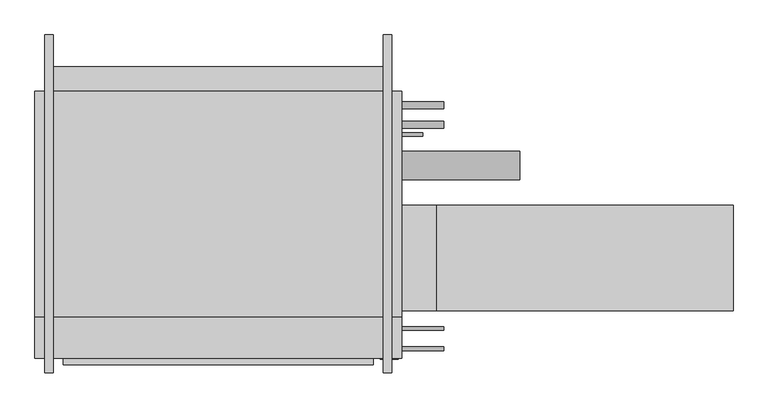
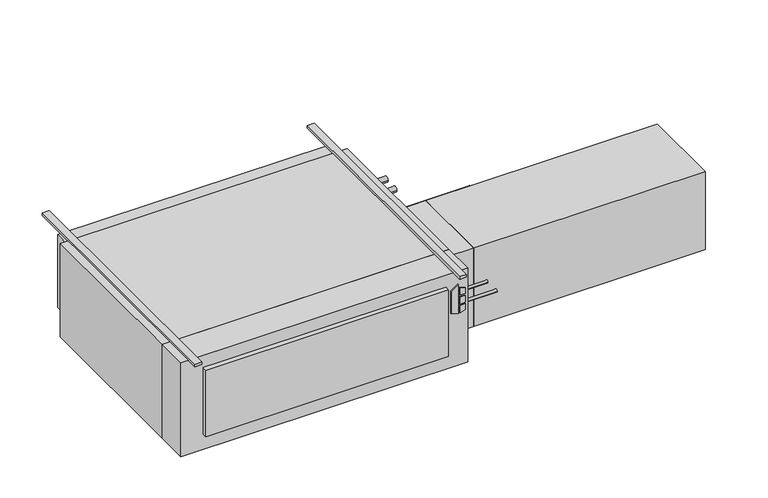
"""IFC4 building model written with IfcOpenShell, lengths in millimetres: proxy geometry."""

from ifc_helpers import new_model, si_unit, point, frame, frame_2d, origin, origin_with_axes, place, context, project, spatial, polyline, circle_curve, trimmed, segment, composite_curve, outline, extrude, source, transform, mapped, element, save


def mechanical_equipment_975d1c76(model_context):
    return source(origin(), model_context, "Body", "SweptSolid", [
        extrude(outline(polyline([(-193.2519297, 735.0868862), (-203.2, 767.2602728), (-61.0290756, 767.2602728), (-84.0510817, 735.0868862), (-193.2519297, 735.0868862)])), frame((0.0, -797.052, 0.0), z_axis=(0.0, 1.0, 0.0), x_axis=(0.0, 0.0, 1.0)), (0.0, 0.0, 1.0), 3.175),
        extrude(outline(polyline([(-114.2526443, 774.0186058), (-117.4550368, 800.1), (-88.2261958, 800.1), (-80.1617807, 774.0186058), (-114.2526443, 774.0186058)])), frame((0.0, -797.052, 0.0), z_axis=(0.0, 1.0, 0.0), x_axis=(0.0, 0.0, 1.0)), (0.0, 0.0, 1.0), 3.175),
        extrude(outline(polyline([(-166.1161712, 800.1), (-169.7816721, 774.0186058), (-203.2, 774.0186058), (-194.5657628, 800.1), (-166.1161712, 800.1)])), frame((0.0, -797.052, 0.0), z_axis=(0.0, 1.0, 0.0), x_axis=(0.0, 0.0, 1.0)), (0.0, 0.0, 1.0), 3.175),
        extrude(outline(polyline([(-126.8010097, 800.1), (-124.5191834, 774.0186058), (-160.4567319, 774.0186058), (-157.7154669, 800.1), (-126.8010097, 800.1)])), frame((0.0, -797.052, 0.0), z_axis=(0.0, 1.0, 0.0), x_axis=(0.0, 0.0, 1.0)), (0.0, 0.0, 1.0), 3.175),
        extrude(outline(polyline([(812.8, -793.877), (-508.0, -793.877), (-508.0, -644.525), (812.8, -644.525), (812.8, -793.877)])), frame((0.0, 0.0, -457.2), z_axis=(0.0, 0.0, 1.0), x_axis=(1.0, 0.0, 0.0)), (0.0, 0.0, 1.0), 457.2),
        extrude(outline(polyline([(711.2, -816.229), (-406.4, -816.229), (-406.4, -793.877), (711.2, -793.877), (711.2, -816.229)])), frame((0.0, 0.0, -381.0), z_axis=(0.0, 0.0, 1.0), x_axis=(1.0, 0.0, 0.0)), (0.0, 0.0, 1.0), 323.85),
        extrude(outline(polyline([(2006.6, -241.3), (2006.6, -622.3), (939.8, -622.3), (939.8, -241.3), (2006.6, -241.3)])), frame((0.0, 0.0, -431.8), z_axis=(0.0, 0.0, 1.0), x_axis=(1.0, 0.0, 0.0)), (0.0, 0.0, 1.0), 381.0),
        extrude(outline(polyline([(939.8, -241.3), (939.8, -622.3), (812.8, -622.3), (812.8, -241.3), (939.8, -241.3)])), frame((0.0, 0.0, -431.8), z_axis=(0.0, 0.0, 1.0), x_axis=(1.0, 0.0, 0.0)), (0.0, 0.0, 1.0), 381.0),
        extrude(outline(composite_curve([segment(trimmed(circle_curve(frame_2d((-758.825, -184.15)), 6.35), [point((-752.475, -184.15))], [point((-765.175, -184.15))], False, "CARTESIAN"), True, "CONTINUOUS"), segment(trimmed(circle_curve(frame_2d((-758.825, -184.15)), 6.35), [point((-765.175, -184.15))], [point((-752.475, -184.15))], False, "CARTESIAN"), True, "CONTINUOUS")], self_intersect=False)), frame((812.8, 0.0, 0.0), z_axis=(1.0, 0.0, 0.0), x_axis=(0.0, 1.0, 0.0)), (0.0, 0.0, 1.0), 152.4),
        extrude(outline(composite_curve([segment(trimmed(circle_curve(frame_2d((-685.8, -184.15)), 6.35), [point((-679.45, -184.15))], [point((-692.15, -184.15))], False, "CARTESIAN"), True, "CONTINUOUS"), segment(trimmed(circle_curve(frame_2d((-685.8, -184.15)), 6.35), [point((-692.15, -184.15))], [point((-679.45, -184.15))], False, "CARTESIAN"), True, "CONTINUOUS")], self_intersect=False)), frame((812.8, 0.0, 0.0), z_axis=(1.0, 0.0, 0.0), x_axis=(0.0, 1.0, 0.0)), (0.0, 0.0, 1.0), 152.4),
        extrude(outline(composite_curve([segment(trimmed(circle_curve(frame_2d((117.475, -171.45)), 12.7), [point((130.175, -171.45))], [point((104.775, -171.45))], False, "CARTESIAN"), True, "CONTINUOUS"), segment(trimmed(circle_curve(frame_2d((117.475, -171.45)), 12.7), [point((104.775, -171.45))], [point((130.175, -171.45))], False, "CARTESIAN"), True, "CONTINUOUS")], self_intersect=False)), frame((812.8, 0.0, 0.0), z_axis=(1.0, 0.0, 0.0), x_axis=(0.0, 1.0, 0.0)), (0.0, 0.0, 1.0), 152.4),
        extrude(outline(composite_curve([segment(trimmed(circle_curve(frame_2d((47.625, -177.8)), 12.7), [point((60.325, -177.8))], [point((34.925, -177.8))], False, "CARTESIAN"), True, "CONTINUOUS"), segment(trimmed(circle_curve(frame_2d((47.625, -177.8)), 12.7), [point((34.925, -177.8))], [point((60.325, -177.8))], False, "CARTESIAN"), True, "CONTINUOUS")], self_intersect=False)), frame((812.8, 0.0, 0.0), z_axis=(1.0, 0.0, 0.0), x_axis=(0.0, 1.0, 0.0)), (0.0, 0.0, 1.0), 152.4),
        extrude(outline(composite_curve([segment(trimmed(circle_curve(frame_2d((-98.4896516, -228.6360165)), 50.8), [point((-47.6896516, -228.6360165))], [point((-149.2896516, -228.6360165))], False, "CARTESIAN"), True, "CONTINUOUS"), segment(trimmed(circle_curve(frame_2d((-98.4896516, -228.6360165)), 50.8), [point((-149.2896516, -228.6360165))], [point((-47.6896516, -228.6360165))], False, "CARTESIAN"), True, "CONTINUOUS")], self_intersect=False)), frame((812.8, 0.0, 0.0), z_axis=(1.0, 0.0, 0.0), x_axis=(0.0, 1.0, 0.0)), (0.0, 0.0, 1.0), 425.45),
        extrude(outline(composite_curve([segment(trimmed(circle_curve(frame_2d((12.7, -409.575)), 6.35), [point((19.05, -409.575))], [point((6.35, -409.575))], False, "CARTESIAN"), True, "CONTINUOUS"), segment(trimmed(circle_curve(frame_2d((12.7, -409.575)), 6.35), [point((6.35, -409.575))], [point((19.05, -409.575))], False, "CARTESIAN"), True, "CONTINUOUS")], self_intersect=False)), frame((812.8, 0.0, 0.0), z_axis=(1.0, 0.0, 0.0), x_axis=(0.0, 1.0, 0.0)), (0.0, 0.0, 1.0), 76.2),
        extrude(outline(polyline([(812.8, 168.275), (812.8, -644.525), (-508.0, -644.525), (-508.0, 168.275), (812.8, 168.275)])), frame((0.0, 0.0, -457.2), z_axis=(0.0, 0.0, 1.0), x_axis=(1.0, 0.0, 0.0)), (0.0, 0.0, 1.0), 457.2),
        extrude(outline(polyline([(-469.9, 257.175), (774.7, 257.175), (774.7, 168.275), (-469.9, 168.275), (-469.9, 257.175)])), frame((0.0, 0.0, -381.0), z_axis=(0.0, 0.0, 1.0), x_axis=(1.0, 0.0, 0.0)), (0.0, 0.0, 1.0), 355.6),
        extrude(outline(polyline([(-441.325, 371.475), (-441.325, -844.677), (-473.075, -844.677), (-473.075, 371.475), (-441.325, 371.475)])), origin_with_axes(), (0.0, 0.0, 1.0), 12.7),
        extrude(outline(polyline([(777.875, 371.475), (777.875, -844.677), (746.125, -844.677), (746.125, 371.475), (777.875, 371.475)])), origin_with_axes(), (0.0, 0.0, 1.0), 12.7),
    ])


if __name__ == "__main__":
    model = new_model("IFC4")
    model_context = context("Model", 3, world=origin())
    ifc_project = project(units=[si_unit("LENGTHUNIT", "METRE", prefix="MILLI")], contexts=[model_context])
    site = spatial("IfcSite", under=ifc_project)
    building = spatial("IfcBuilding", under=site)
    placement = place(None, origin())
    mechanical_equipment_shape = mechanical_equipment_975d1c76(model_context)
    element("IfcBuildingElementProxy", 1, Name="High_Capacity_Horizontal_Cabinet_Fan_Coil_Unit_-_HTY_-_IEC_-_4-Pipe_WO-Attenuator_RH Side_2022 : Size 18 - 115v/60Hz/1Ph - 4/1 Coil - 4\" AirIn", ObjectType="High_Capacity_Horizontal_Cabinet_Fan_Coil_Unit_-_HTY_-_IEC_-_4-Pipe_WO-Attenuator_RH Side_2022 : Size 18 - 115v/60Hz/1Ph - 4/1 Coil - 4\" AirIn", at=placement, inside=building, context=model_context, shape_type="MappedRepresentation", body=[
        mapped(mechanical_equipment_shape, transform((0.0, 0.0, 0.0), x_axis=(1.0, 0.0, 0.0), y_axis=(0.0, 1.0, 0.0), z_axis=(0.0, 0.0, 1.0))),
    ])
    save(model, "model.ifc")
